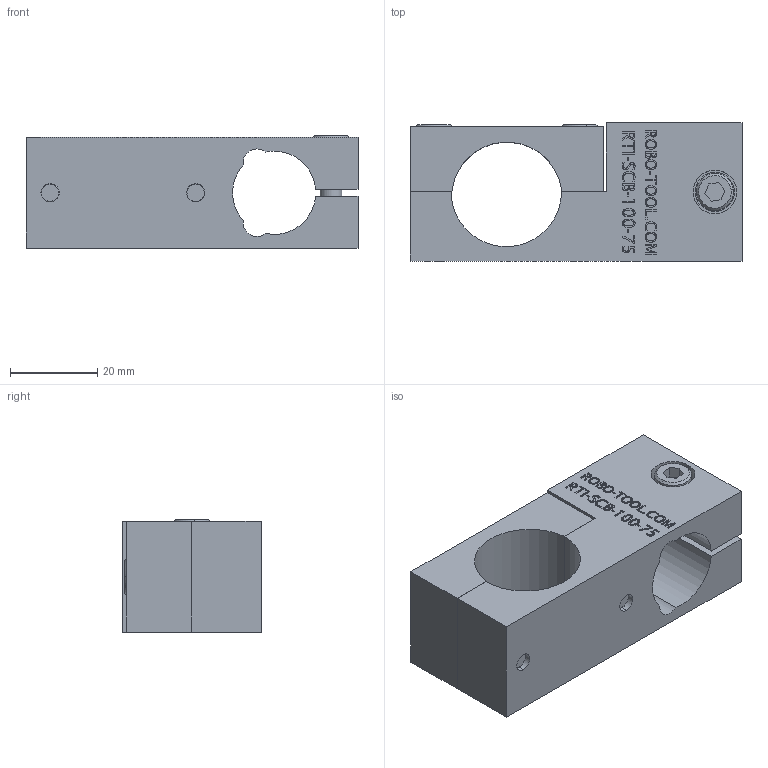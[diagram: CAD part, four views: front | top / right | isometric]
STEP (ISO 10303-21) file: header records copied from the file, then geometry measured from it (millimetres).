
FILE_DESCRIPTION (( 'STEP AP214' ), '1' );
FILE_NAME ('RTI-SCB-100-75.STEP', '2013-10-22T14:42:38', ( 'user' ), ( '' ), 'SwSTEP 2.0', 'SolidWorks 2009', '' );
FILE_SCHEMA (( 'AUTOMOTIVE_DESIGN' ));
Length unit declared in the file: inch
Products named in the file (6): RTI-SCB-100T; RTI-SCB-100-75; M5 WASHER; M5 S.H.C.S._M5x25mm; M5 S.H.C.S._M5x16mm
Assembly tree (8 placements, depth 2):
  RTI-SCB-100-75
    M5 WASHER  x3
    M5 S.H.C.S._M5x25mm  x2
    RTI-SCB-100-75
    RTI-SCB-100T
    M5 S.H.C.S._M5x16mm
Bounding box: 76.2 x 31.75 x 25.75 mm (x, y, z)
Volume: 37963.4 mm3; surface area: 18435.3 mm2
Topology: 8 solids, 8 shells, 672 faces, 1695 edges, 1126 vertices
Faces by surface type: plane 378, bspline 231, cylinder 51, cone 12
Entity records: 41741 total; most frequent: CARTESIAN_POINT 20547, ORIENTED_EDGE 3266, DIRECTION 2101, EDGE_CURVE 1633, VERTEX_POINT 1086, VECTOR 1085, LINE 1085, EDGE_LOOP 741
